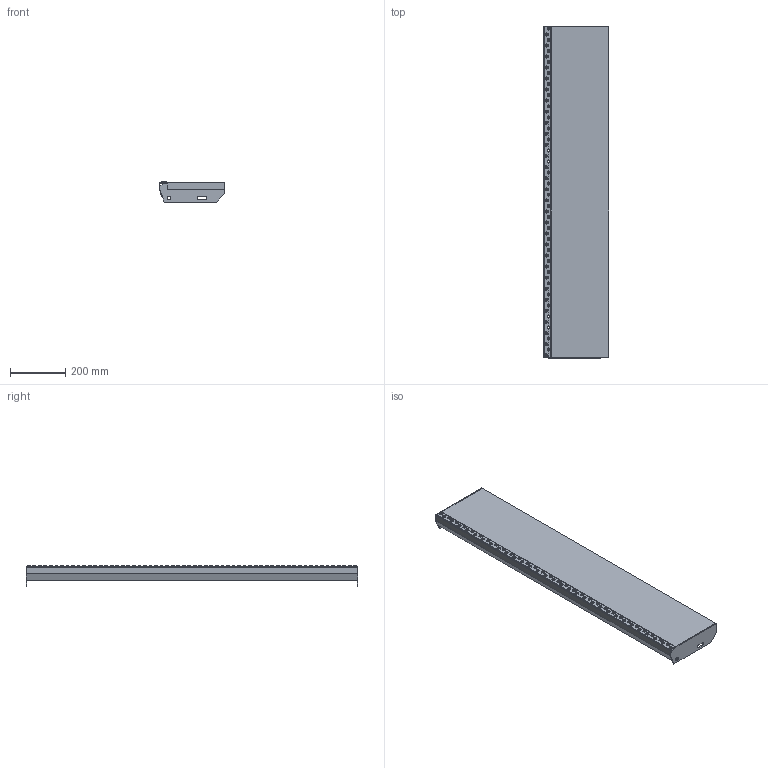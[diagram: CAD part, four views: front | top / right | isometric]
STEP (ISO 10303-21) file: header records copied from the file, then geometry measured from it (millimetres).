
FILE_DESCRIPTION(('Open CASCADE Model'),'2;1');
FILE_NAME('Open CASCADE Shape Model','2019-03-13T09:56:00',('Author'),( 'Open CASCADE'),'Open CASCADE STEP processor 7.2','Open CASCADE 7.2' ,'Unknown');
FILE_SCHEMA(('AUTOMOTIVE_DESIGN { 1 0 10303 214 1 1 1 1 }'));
Length unit declared in the file: millimetre
Products named in the file (1880): Open CASCADE STEP translator 7.2 1; Open CASCADE STEP translator 7.2 2; Open CASCADE STEP translator 7.2 3; Open CASCADE STEP translator 7.2 3.1; Open CASCADE STEP translator 7.2 3.2; Open CASCADE STEP translator 7.2 3.3; Open CASCADE STEP translator 7.2 3.4; Open CASCADE STEP translator 7.2 3.5; Open CASCADE STEP translator 7.2 3.6; Open CASCADE STEP translator 7.2 3.7; Open CASCADE STEP translator 7.2 3.8; Open CASCADE STEP translator 7.2 3.9; Open CASCADE STEP translator 7.2 3.10; Open CASCADE STEP translator 7.2 3.11; Open CASCADE STEP translator 7.2 3.12; Open CASCADE STEP translator 7.2 3.13; Open CASCADE STEP translator 7.2 3.14; Open CASCADE STEP translator 7.2 3.15; Open CASCADE STEP translator 7.2 3.16; Open CASCADE STEP translator 7.2 3.17; Open CASCADE STEP translator 7.2 3.18; Open CASCADE STEP translator 7.2 3.19; Open CASCADE STEP translator 7.2 3.20; Open CASCADE STEP translator 7.2 3.21; Open CASCADE STEP translator 7.2 3.22; Open CASCADE STEP translator 7.2 3.23; Open CASCADE STEP translator 7.2 3.24; Open CASCADE STEP translator 7.2 3.25; Open CASCADE STEP translator 7.2 3.26; Open CASCADE STEP translator 7.2 3.27; Open CASCADE STEP translator 7.2 3.28; Open CASCADE STEP translator 7.2 3.29; Open CASCADE STEP translator 7.2 3.30; Open CASCADE STEP translator 7.2 3.31; Open CASCADE STEP translator 7.2 3.32; Open CASCADE STEP translator 7.2 3.33; Open CASCADE STEP translator 7.2 3.34; Open CASCADE STEP translator 7.2 3.35; Open CASCADE STEP translator 7.2 3.36; Open CASCADE STEP translator 7.2 3.37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
Assembly tree (1876 placements, depth 2):
  Open CASCADE STEP translator 7.2 1
  Open CASCADE STEP translator 7.2 2
  Open CASCADE STEP translator 7.2 3
    Open CASCADE STEP translator 7.2 3.1
    Open CASCADE STEP translator 7.2 3.2
    Open CASCADE STEP translator 7.2 3.3
    Open CASCADE STEP translator 7.2 3.4
    Open CASCADE STEP translator 7.2 3.5
    Open CASCADE STEP translator 7.2 3.6
    Open CASCADE STEP translator 7.2 3.7
    Open CASCADE STEP translator 7.2 3.8
    Open CASCADE STEP translator 7.2 3.9
    Open CASCADE STEP translator 7.2 3.10
    Open CASCADE STEP translator 7.2 3.11
    Open CASCADE STEP translator 7.2 3.12
    Open CASCADE STEP translator 7.2 3.13
    Open CASCADE STEP translator 7.2 3.14
    Open CASCADE STEP translator 7.2 3.15
    Open CASCADE STEP translator 7.2 3.16
    Open CASCADE STEP translator 7.2 3.17
    Open CASCADE STEP translator 7.2 3.18
    Open CASCADE STEP translator 7.2 3.19
    Open CASCADE STEP translator 7.2 3.20
    Open CASCADE STEP translator 7.2 3.21
    Open CASCADE STEP translator 7.2 3.22
    Open CASCADE STEP translator 7.2 3.23
    Open CASCADE STEP translator 7.2 3.24
    Open CASCADE STEP translator 7.2 3.25
    Open CASCADE STEP translator 7.2 3.26
    Open CASCADE STEP translator 7.2 3.27
    Open CASCADE STEP translator 7.2 3.28
    Open CASCADE STEP translator 7.2 3.29
    Open CASCADE STEP translator 7.2 3.30
    Open CASCADE STEP translator 7.2 3.31
    Open CASCADE STEP translator 7.2 3.32
    Open CASCADE STEP translator 7.2 3.33
    Open CASCADE STEP translator 7.2 3.34
    Open CASCADE STEP translator 7.2 3.35
    Open CASCADE STEP translator 7.2 3.36
    Open CASCADE STEP translator 7.2 3.37
    Open CASCADE STEP translator 7.2 3.38
    Open CASCADE STEP translator 7.2 3.39
    Open CASCADE STEP translator 7.2 3.40
    Open CASCADE STEP translator 7.2 3.41
    Open CASCADE STEP translator 7.2 3.42
    Open CASCADE STEP translator 7.2 3.43
    Open CASCADE STEP translator 7.2 3.44
    Open CASCADE STEP translator 7.2 3.45
    Open CASCADE STEP translator 7.2 3.46
    Open CASCADE STEP translator 7.2 3.47
    Open CASCADE STEP translator 7.2 3.48
    Open CASCADE STEP translator 7.2 3.49
    Open CASCADE STEP translator 7.2 3.50
    Open CASCADE STEP translator 7.2 3.51
    Open CASCADE STEP translator 7.2 3.52
    Open CASCADE STEP translator 7.2 3.53
    Open CASCADE STEP translator 7.2 3.54
    Open CASCADE STEP translator 7.2 3.55
    Open CASCADE STEP translator 7.2 3.56
    Open CASCADE STEP translator 7.2 3.57
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Bounding box: 237 x 1200 x 73 mm (x, y, z)
Volume: 6283671.2 mm3; surface area: 823058.3 mm2
Topology: 3 solids, 1879 shells, 1914 faces, 10260 edges, 10228 vertices
Faces by surface type: plane 1908, cylinder 6
Full cylindrical faces by diameter (mm): 13 x2
Entity records: 208032 total; most frequent: CARTESIAN_POINT 34731, DIRECTION 28174, LINE 20568, VECTOR 20568, ORIENTED_EDGE 10356, PCURVE 10356, DEFINITIONAL_REPRESENTATION 10356, EDGE_CURVE 10260
